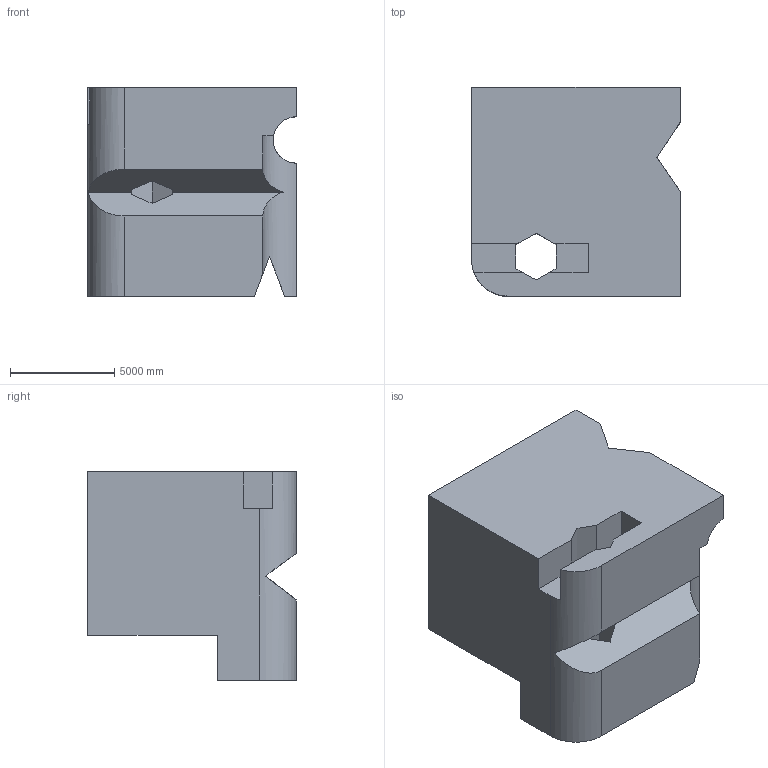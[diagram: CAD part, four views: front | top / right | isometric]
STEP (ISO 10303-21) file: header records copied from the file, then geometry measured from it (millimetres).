
FILE_DESCRIPTION (( 'STEP AP203' ), '1' );
FILE_NAME ('1826.STEP', '2022-08-19T13:16:10', ( 'user' ), ( '' ), 'SwSTEP 2.0', 'SolidWorks 2021', '' );
FILE_SCHEMA (( 'CONFIG_CONTROL_DESIGN' ));
Length unit declared in the file: centimetre
Products named in the file (1): 1826
Bounding box: 10000 x 10000 x 10000 mm (x, y, z)
Volume: 736184020253.6 mm3; surface area: 638952475.6 mm2
Topology: 1 solids, 1 shells, 39 faces, 120 edges, 80 vertices
Faces by surface type: plane 35, cylinder 4
Entity records: 1491 total; most frequent: CARTESIAN_POINT 351, ORIENTED_EDGE 240, DIRECTION 198, EDGE_CURVE 120, VECTOR 104, LINE 104, VERTEX_POINT 80, AXIS2_PLACEMENT_3D 47
